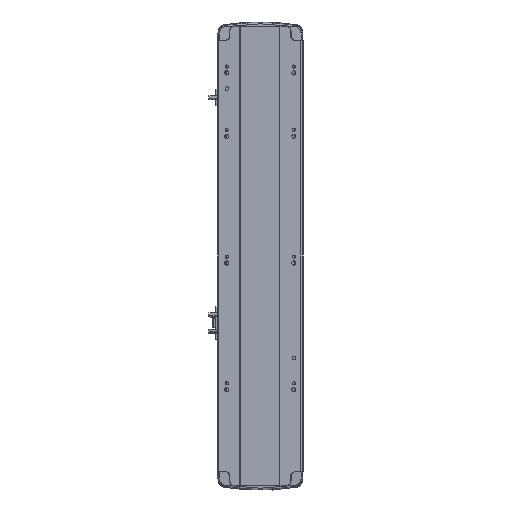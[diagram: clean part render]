
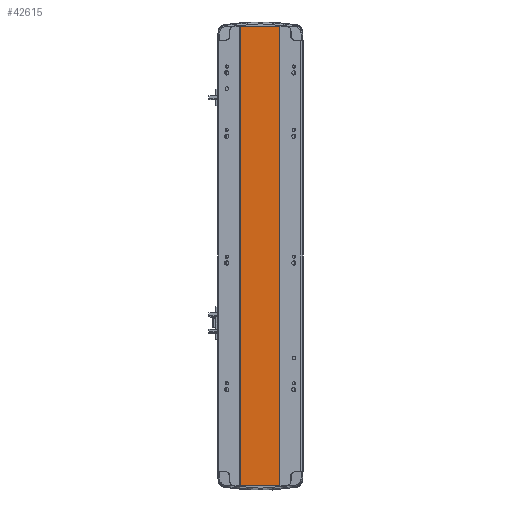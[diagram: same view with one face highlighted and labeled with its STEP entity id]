
A CAD part, front view. The second image highlights one B-rep face of the part: STEP entity #42615.
In plain terms, the highlighted planar face has unit normal (0, -1, 0).
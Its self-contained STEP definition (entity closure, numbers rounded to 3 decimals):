
#317 = DIRECTION ( 'NONE',  ( 0., 0., -1. ) ) ;
#812 = LINE ( 'NONE', #44678, #8071 ) ;
#1853 = CARTESIAN_POINT ( 'NONE',  ( 30., 1., 0. ) ) ;
#2181 = DIRECTION ( 'NONE',  ( 1., 0., 0. ) ) ;
#3222 = CARTESIAN_POINT ( 'NONE',  ( -32., 1., 726. ) ) ;
#4397 = CARTESIAN_POINT ( 'NONE',  ( 30., 1., 726. ) ) ;
#4626 = EDGE_CURVE ( 'NONE', #28650, #8263, #10574, .T. ) ;
#5324 = CARTESIAN_POINT ( 'NONE',  ( -32., 1., 726. ) ) ;
#5605 = DIRECTION ( 'NONE',  ( 1., 0., 0. ) ) ;
#7002 = VERTEX_POINT ( 'NONE', #1853 ) ;
#7214 = VECTOR ( 'NONE', #2181, 1000. ) ;
#7718 = LINE ( 'NONE', #4397, #15012 ) ;
#7732 = DIRECTION ( 'NONE',  ( 0., 0., -1. ) ) ;
#8071 = VECTOR ( 'NONE', #5605, 1000. ) ;
#8263 = VERTEX_POINT ( 'NONE', #26528 ) ;
#9047 = DIRECTION ( 'NONE',  ( 0., 1., 0. ) ) ;
#10574 = LINE ( 'NONE', #12823, #7214 ) ;
#12185 = DIRECTION ( 'NONE',  ( -1., 0., 0. ) ) ;
#12716 = EDGE_LOOP ( 'NONE', ( #18340, #21577, #40001, #46123 ) ) ;
#12823 = CARTESIAN_POINT ( 'NONE',  ( -32., 1., 726. ) ) ;
#15012 = VECTOR ( 'NONE', #317, 1000. ) ;
#18022 = CARTESIAN_POINT ( 'NONE',  ( -32., 1., 0. ) ) ;
#18340 = ORIENTED_EDGE ( 'NONE', *, *, #18878, .T. ) ;
#18633 = AXIS2_PLACEMENT_3D ( 'NONE', #5324, #9047, #12185 ) ;
#18878 = EDGE_CURVE ( 'NONE', #39052, #7002, #812, .T. ) ;
#21577 = ORIENTED_EDGE ( 'NONE', *, *, #23776, .F. ) ;
#23766 = LINE ( 'NONE', #25878, #32117 ) ;
#23776 = EDGE_CURVE ( 'NONE', #8263, #7002, #7718, .T. ) ;
#25878 = CARTESIAN_POINT ( 'NONE',  ( -32., 1., 726. ) ) ;
#26528 = CARTESIAN_POINT ( 'NONE',  ( 30., 1., 726. ) ) ;
#27020 = PLANE ( 'NONE',  #18633 ) ;
#28650 = VERTEX_POINT ( 'NONE', #3222 ) ;
#32117 = VECTOR ( 'NONE', #7732, 1000. ) ;
#33602 = EDGE_CURVE ( 'NONE', #28650, #39052, #23766, .T. ) ;
#39052 = VERTEX_POINT ( 'NONE', #18022 ) ;
#40001 = ORIENTED_EDGE ( 'NONE', *, *, #4626, .F. ) ;
#42615 = ADVANCED_FACE ( 'NONE', ( #42898 ), #27020, .F. ) ;
#42898 = FACE_OUTER_BOUND ( 'NONE', #12716, .T. ) ;
#44678 = CARTESIAN_POINT ( 'NONE',  ( -32., 1., 0. ) ) ;
#46123 = ORIENTED_EDGE ( 'NONE', *, *, #33602, .T. ) ;
